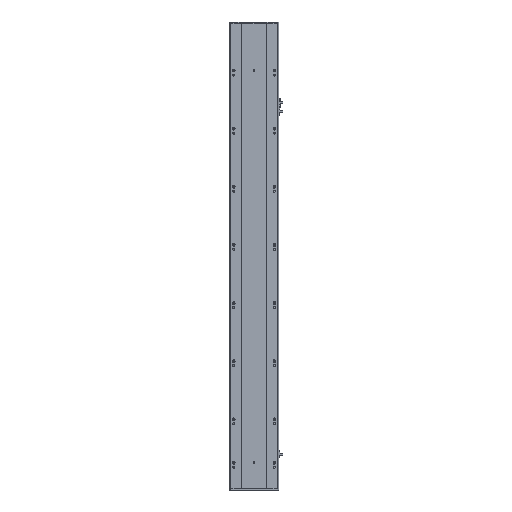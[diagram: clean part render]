
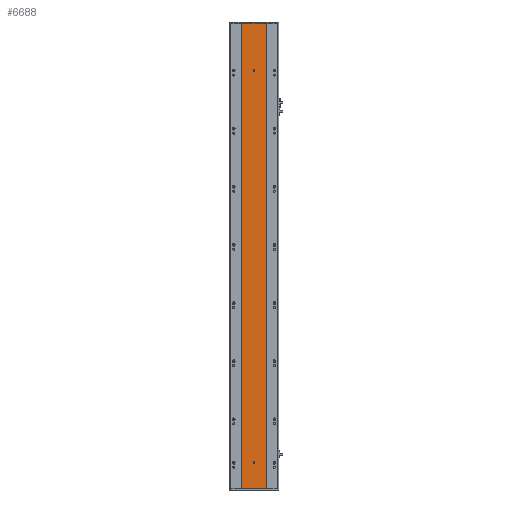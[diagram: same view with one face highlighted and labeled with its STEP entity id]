
A CAD part, front view. The second image highlights one B-rep face of the part: STEP entity #6688.
In plain terms, the highlighted planar face has unit normal (0, -1, 0).
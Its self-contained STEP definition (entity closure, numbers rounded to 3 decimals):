
#1230 = ORIENTED_EDGE ( 'NONE', *, *, #8871, .T. ) ;
#1829 = CARTESIAN_POINT ( 'NONE',  ( 42.916, 2.57, 0. ) ) ;
#2115 = EDGE_LOOP ( 'NONE', ( #1230, #24615 ) ) ;
#2222 = EDGE_LOOP ( 'NONE', ( #18716, #6118 ) ) ;
#2609 = CIRCLE ( 'NONE', #20085, 3. ) ;
#3061 = FACE_BOUND ( 'NONE', #2222, .T. ) ;
#4227 = LINE ( 'NONE', #10463, #14507 ) ;
#4240 = ORIENTED_EDGE ( 'NONE', *, *, #10789, .T. ) ;
#4310 = DIRECTION ( 'NONE',  ( 0., 1., 0. ) ) ;
#4356 = CARTESIAN_POINT ( 'NONE',  ( 85., 2.57, 88.5 ) ) ;
#6118 = ORIENTED_EDGE ( 'NONE', *, *, #10582, .T. ) ;
#6435 = DIRECTION ( 'NONE',  ( 0., 0., 1. ) ) ;
#6441 = DIRECTION ( 'NONE',  ( 0., 0., 1. ) ) ;
#6554 = ORIENTED_EDGE ( 'NONE', *, *, #24447, .T. ) ;
#6688 = ADVANCED_FACE ( 'NONE', ( #3061, #13355, #18813 ), #22379, .F. ) ;
#7265 = EDGE_CURVE ( 'NONE', #21073, #24429, #16205, .T. ) ;
#7328 = ORIENTED_EDGE ( 'NONE', *, *, #7265, .F. ) ;
#7569 = CARTESIAN_POINT ( 'NONE',  ( 85., 2.57, 1441.5 ) ) ;
#7761 = CARTESIAN_POINT ( 'NONE',  ( 126.916, 2.57, 1601. ) ) ;
#7971 = CARTESIAN_POINT ( 'NONE',  ( 85., 2.57, 1438.5 ) ) ;
#8871 = EDGE_CURVE ( 'NONE', #10991, #21576, #2609, .T. ) ;
#9010 = AXIS2_PLACEMENT_3D ( 'NONE', #7971, #22249, #10012 ) ;
#9141 = VERTEX_POINT ( 'NONE', #18912 ) ;
#10012 = DIRECTION ( 'NONE',  ( 0., 0., 1. ) ) ;
#10463 = CARTESIAN_POINT ( 'NONE',  ( 42.916, 2.57, 0. ) ) ;
#10582 = EDGE_CURVE ( 'NONE', #20810, #24051, #22809, .T. ) ;
#10746 = VECTOR ( 'NONE', #20400, 1000. ) ;
#10760 = VECTOR ( 'NONE', #25718, 1000. ) ;
#10789 = EDGE_CURVE ( 'NONE', #21073, #15156, #22466, .T. ) ;
#10991 = VERTEX_POINT ( 'NONE', #22449 ) ;
#11342 = CARTESIAN_POINT ( 'NONE',  ( 42.916, 2.57, 0. ) ) ;
#11428 = CARTESIAN_POINT ( 'NONE',  ( 42.916, 2.57, 1601. ) ) ;
#11497 = EDGE_CURVE ( 'NONE', #21576, #10991, #15396, .T. ) ;
#11602 = VECTOR ( 'NONE', #19723, 1000. ) ;
#11935 = CARTESIAN_POINT ( 'NONE',  ( 85., 2.57, 1438.5 ) ) ;
#12910 = EDGE_CURVE ( 'NONE', #24051, #20810, #16630, .T. ) ;
#13170 = CARTESIAN_POINT ( 'NONE',  ( 85., 2.57, 91.5 ) ) ;
#13355 = FACE_BOUND ( 'NONE', #2115, .T. ) ;
#13977 = DIRECTION ( 'NONE',  ( 0., 0., 1. ) ) ;
#14271 = DIRECTION ( 'NONE',  ( 0., 0., 1. ) ) ;
#14507 = VECTOR ( 'NONE', #6441, 1000. ) ;
#15156 = VERTEX_POINT ( 'NONE', #7761 ) ;
#15396 = CIRCLE ( 'NONE', #9010, 3. ) ;
#16205 = LINE ( 'NONE', #24417, #10746 ) ;
#16284 = CARTESIAN_POINT ( 'NONE',  ( 85., 2.57, 85.5 ) ) ;
#16530 = AXIS2_PLACEMENT_3D ( 'NONE', #16603, #4310, #18667 ) ;
#16603 = CARTESIAN_POINT ( 'NONE',  ( 85., 2.57, 88.5 ) ) ;
#16630 = CIRCLE ( 'NONE', #17126, 3. ) ;
#17126 = AXIS2_PLACEMENT_3D ( 'NONE', #4356, #18718, #6435 ) ;
#17667 = CARTESIAN_POINT ( 'NONE',  ( 126.916, 2.57, 0. ) ) ;
#17777 = EDGE_CURVE ( 'NONE', #24429, #9141, #4227, .T. ) ;
#18118 = ORIENTED_EDGE ( 'NONE', *, *, #17777, .F. ) ;
#18667 = DIRECTION ( 'NONE',  ( 0., 0., 1. ) ) ;
#18716 = ORIENTED_EDGE ( 'NONE', *, *, #12910, .T. ) ;
#18718 = DIRECTION ( 'NONE',  ( 0., 1., 0. ) ) ;
#18813 = FACE_OUTER_BOUND ( 'NONE', #23163, .T. ) ;
#18839 = AXIS2_PLACEMENT_3D ( 'NONE', #1829, #26503, #14271 ) ;
#18912 = CARTESIAN_POINT ( 'NONE',  ( 42.916, 2.57, 1601. ) ) ;
#19723 = DIRECTION ( 'NONE',  ( 0., 0., 1. ) ) ;
#20026 = CARTESIAN_POINT ( 'NONE',  ( 126.916, 2.57, 0. ) ) ;
#20085 = AXIS2_PLACEMENT_3D ( 'NONE', #11935, #26223, #13977 ) ;
#20400 = DIRECTION ( 'NONE',  ( -1., 0., 0. ) ) ;
#20810 = VERTEX_POINT ( 'NONE', #13170 ) ;
#21005 = LINE ( 'NONE', #11428, #10760 ) ;
#21073 = VERTEX_POINT ( 'NONE', #20026 ) ;
#21576 = VERTEX_POINT ( 'NONE', #7569 ) ;
#22249 = DIRECTION ( 'NONE',  ( 0., 1., 0. ) ) ;
#22379 = PLANE ( 'NONE',  #18839 ) ;
#22449 = CARTESIAN_POINT ( 'NONE',  ( 85., 2.57, 1435.5 ) ) ;
#22466 = LINE ( 'NONE', #17667, #11602 ) ;
#22809 = CIRCLE ( 'NONE', #16530, 3. ) ;
#23163 = EDGE_LOOP ( 'NONE', ( #6554, #18118, #7328, #4240 ) ) ;
#24051 = VERTEX_POINT ( 'NONE', #16284 ) ;
#24417 = CARTESIAN_POINT ( 'NONE',  ( 42.916, 2.57, 0. ) ) ;
#24429 = VERTEX_POINT ( 'NONE', #11342 ) ;
#24447 = EDGE_CURVE ( 'NONE', #15156, #9141, #21005, .T. ) ;
#24615 = ORIENTED_EDGE ( 'NONE', *, *, #11497, .T. ) ;
#25718 = DIRECTION ( 'NONE',  ( -1., 0., 0. ) ) ;
#26223 = DIRECTION ( 'NONE',  ( 0., 1., 0. ) ) ;
#26503 = DIRECTION ( 'NONE',  ( 0., 1., 0. ) ) ;
